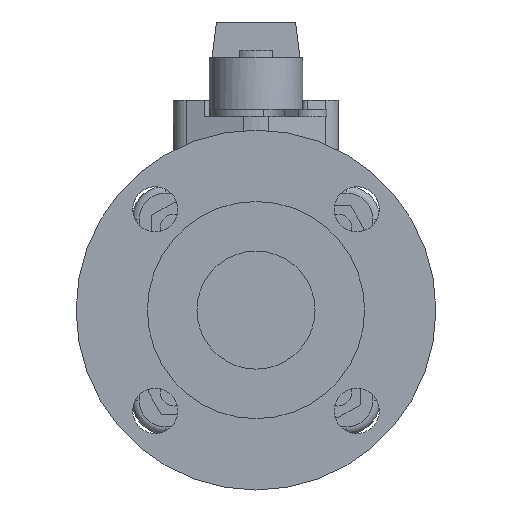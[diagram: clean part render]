
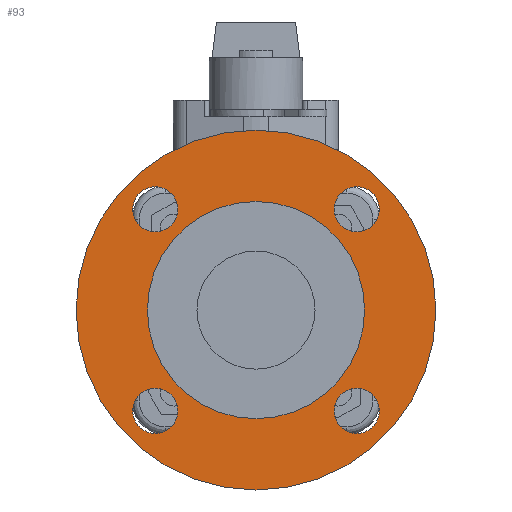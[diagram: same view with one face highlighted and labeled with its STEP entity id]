
A CAD part, left-side view. The second image highlights one B-rep face of the part: STEP entity #93.
In plain terms, the highlighted planar face has unit normal (-1, 0, 0).
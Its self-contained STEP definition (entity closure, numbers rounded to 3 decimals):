
#93=ADVANCED_FACE('',(#485,#486,#487,#488,#489,#490),#484,.T.);
#484=PLANE('',#2634);
#485=FACE_OUTER_BOUND('',#2635,.T.);
#486=FACE_BOUND('',#2636,.T.);
#487=FACE_BOUND('',#2637,.T.);
#488=FACE_BOUND('',#2638,.T.);
#489=FACE_BOUND('',#2639,.T.);
#490=FACE_BOUND('',#2640,.T.);
#2631=CARTESIAN_POINT('',(-89.7,-141.982,-162.4));
#2632=DIRECTION('',(-1.,0.,0.));
#2633=DIRECTION('',(0.,0.,1.));
#2634=AXIS2_PLACEMENT_3D('',#2631,#2632,#2633);
#2635=EDGE_LOOP('',(#4197,#4198));
#2636=EDGE_LOOP('',(#4199,#4200));
#2637=EDGE_LOOP('',(#4201,#4202));
#2638=EDGE_LOOP('',(#4203,#4204));
#2639=EDGE_LOOP('',(#4205,#4206));
#2640=EDGE_LOOP('',(#4207,#4208));
#4197=ORIENTED_EDGE('',*,*,#5320,.T.);
#4198=ORIENTED_EDGE('',*,*,#5321,.T.);
#4199=ORIENTED_EDGE('',*,*,#5322,.F.);
#4200=ORIENTED_EDGE('',*,*,#5323,.F.);
#4201=ORIENTED_EDGE('',*,*,#5324,.F.);
#4202=ORIENTED_EDGE('',*,*,#5325,.F.);
#4203=ORIENTED_EDGE('',*,*,#5326,.F.);
#4204=ORIENTED_EDGE('',*,*,#5327,.F.);
#4205=ORIENTED_EDGE('',*,*,#5328,.F.);
#4206=ORIENTED_EDGE('',*,*,#5329,.F.);
#4207=ORIENTED_EDGE('',*,*,#5330,.F.);
#4208=ORIENTED_EDGE('',*,*,#5331,.F.);
#5320=EDGE_CURVE('',#6678,#6679,#6680,.T.);
#5321=EDGE_CURVE('',#6679,#6678,#6686,.T.);
#5322=EDGE_CURVE('',#6692,#6693,#6694,.T.);
#5323=EDGE_CURVE('',#6693,#6692,#6700,.T.);
#5324=EDGE_CURVE('',#6706,#6707,#6708,.T.);
#5325=EDGE_CURVE('',#6707,#6706,#6714,.T.);
#5326=EDGE_CURVE('',#6720,#6721,#6722,.T.);
#5327=EDGE_CURVE('',#6721,#6720,#6728,.T.);
#5328=EDGE_CURVE('',#6734,#6735,#6736,.T.);
#5329=EDGE_CURVE('',#6735,#6734,#6742,.T.);
#5330=EDGE_CURVE('',#6748,#6749,#6750,.T.);
#5331=EDGE_CURVE('',#6749,#6748,#6756,.T.);
#6678=VERTEX_POINT('',#10141);
#6679=VERTEX_POINT('',#10142);
#6680=CIRCLE('',#10146,76.2);
#6686=CIRCLE('',#10150,76.2);
#6692=VERTEX_POINT('',#10151);
#6693=VERTEX_POINT('',#10152);
#6694=CIRCLE('',#10156,46.);
#6700=CIRCLE('',#10160,46.);
#6706=VERTEX_POINT('',#10161);
#6707=VERTEX_POINT('',#10162);
#6708=CIRCLE('',#10166,9.55);
#6714=CIRCLE('',#10170,9.55);
#6720=VERTEX_POINT('',#10171);
#6721=VERTEX_POINT('',#10172);
#6722=CIRCLE('',#10176,9.55);
#6728=CIRCLE('',#10180,9.55);
#6734=VERTEX_POINT('',#10181);
#6735=VERTEX_POINT('',#10182);
#6736=CIRCLE('',#10186,9.55);
#6742=CIRCLE('',#10190,9.55);
#6748=VERTEX_POINT('',#10191);
#6749=VERTEX_POINT('',#10192);
#6750=CIRCLE('',#10196,9.55);
#6756=CIRCLE('',#10200,9.55);
#10141=CARTESIAN_POINT('',(-89.7,0.,76.2));
#10142=CARTESIAN_POINT('',(-89.7,0.,-76.2));
#10143=CARTESIAN_POINT('',(-89.7,0.,0.));
#10144=DIRECTION('',(-1.,0.,0.));
#10145=DIRECTION('',(0.,0.,1.));
#10146=AXIS2_PLACEMENT_3D('',#10143,#10144,#10145);
#10147=CARTESIAN_POINT('',(-89.7,0.,0.));
#10148=DIRECTION('',(-1.,0.,0.));
#10149=DIRECTION('',(0.,0.,1.));
#10150=AXIS2_PLACEMENT_3D('',#10147,#10148,#10149);
#10151=CARTESIAN_POINT('',(-89.7,0.,-46.));
#10152=CARTESIAN_POINT('',(-89.7,0.,46.));
#10153=CARTESIAN_POINT('',(-89.7,0.,0.));
#10154=DIRECTION('',(-1.,0.,0.));
#10155=DIRECTION('',(0.,0.,1.));
#10156=AXIS2_PLACEMENT_3D('',#10153,#10154,#10155);
#10157=CARTESIAN_POINT('',(-89.7,0.,0.));
#10158=DIRECTION('',(-1.,0.,0.));
#10159=DIRECTION('',(0.,0.,1.));
#10160=AXIS2_PLACEMENT_3D('',#10157,#10158,#10159);
#10161=CARTESIAN_POINT('',(-89.7,42.674,33.124));
#10162=CARTESIAN_POINT('',(-89.7,42.674,52.224));
#10163=CARTESIAN_POINT('',(-89.7,42.674,42.674));
#10164=DIRECTION('',(-1.,0.,0.));
#10165=DIRECTION('',(0.,0.,1.));
#10166=AXIS2_PLACEMENT_3D('',#10163,#10164,#10165);
#10167=CARTESIAN_POINT('',(-89.7,42.674,42.674));
#10168=DIRECTION('',(-1.,0.,0.));
#10169=DIRECTION('',(0.,0.,1.));
#10170=AXIS2_PLACEMENT_3D('',#10167,#10168,#10169);
#10171=CARTESIAN_POINT('',(-89.7,-42.674,52.224));
#10172=CARTESIAN_POINT('',(-89.7,-42.674,33.124));
#10173=CARTESIAN_POINT('',(-89.7,-42.674,42.674));
#10174=DIRECTION('',(-1.,0.,0.));
#10175=DIRECTION('',(0.,0.,-1.));
#10176=AXIS2_PLACEMENT_3D('',#10173,#10174,#10175);
#10177=CARTESIAN_POINT('',(-89.7,-42.674,42.674));
#10178=DIRECTION('',(-1.,0.,0.));
#10179=DIRECTION('',(0.,0.,-1.));
#10180=AXIS2_PLACEMENT_3D('',#10177,#10178,#10179);
#10181=CARTESIAN_POINT('',(-89.7,-42.674,-52.224));
#10182=CARTESIAN_POINT('',(-89.7,-42.674,-33.124));
#10183=CARTESIAN_POINT('',(-89.7,-42.674,-42.674));
#10184=DIRECTION('',(-1.,0.,0.));
#10185=DIRECTION('',(0.,0.,1.));
#10186=AXIS2_PLACEMENT_3D('',#10183,#10184,#10185);
#10187=CARTESIAN_POINT('',(-89.7,-42.674,-42.674));
#10188=DIRECTION('',(-1.,0.,0.));
#10189=DIRECTION('',(0.,0.,1.));
#10190=AXIS2_PLACEMENT_3D('',#10187,#10188,#10189);
#10191=CARTESIAN_POINT('',(-89.7,42.674,-33.124));
#10192=CARTESIAN_POINT('',(-89.7,42.674,-52.224));
#10193=CARTESIAN_POINT('',(-89.7,42.674,-42.674));
#10194=DIRECTION('',(-1.,0.,0.));
#10195=DIRECTION('',(0.,0.,-1.));
#10196=AXIS2_PLACEMENT_3D('',#10193,#10194,#10195);
#10197=CARTESIAN_POINT('',(-89.7,42.674,-42.674));
#10198=DIRECTION('',(-1.,0.,0.));
#10199=DIRECTION('',(0.,0.,-1.));
#10200=AXIS2_PLACEMENT_3D('',#10197,#10198,#10199);
